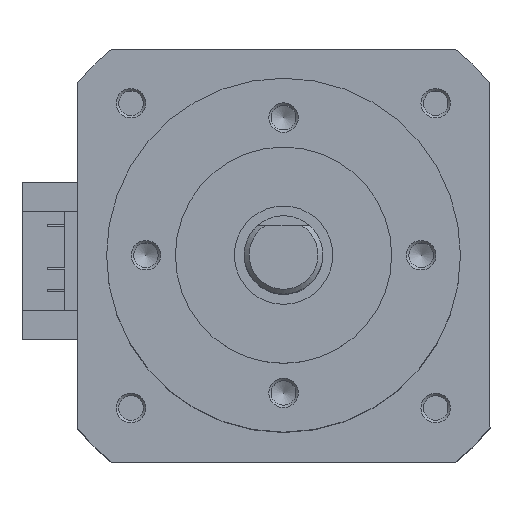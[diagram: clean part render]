
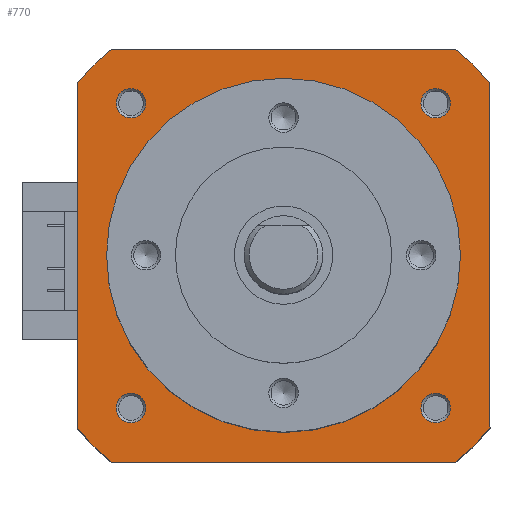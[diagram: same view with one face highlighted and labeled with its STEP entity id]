
A CAD part, top view. The second image highlights one B-rep face of the part: STEP entity #770.
In plain terms, the highlighted planar face has unit normal (0, 0, 1).
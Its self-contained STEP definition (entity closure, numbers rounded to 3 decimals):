
#219=LINE('',#4140,#351);
#224=LINE('',#4154,#356);
#228=LINE('',#4166,#360);
#232=LINE('',#4178,#364);
#351=VECTOR('',#3174,1.);
#356=VECTOR('',#3187,1.);
#360=VECTOR('',#3199,1.);
#364=VECTOR('',#3211,1.);
#770=ADVANCED_FACE('',(#1003,#1004,#1005,#1006,#1007),#888,.T.);
#888=PLANE('',#2731);
#1003=FACE_BOUND('',#1185,.T.);
#1004=FACE_BOUND('',#1186,.T.);
#1005=FACE_BOUND('',#1187,.T.);
#1006=FACE_BOUND('',#1188,.T.);
#1007=FACE_BOUND('',#1189,.T.);
#1185=EDGE_LOOP('',(#1571));
#1186=EDGE_LOOP('',(#1572));
#1187=EDGE_LOOP('',(#1573));
#1188=EDGE_LOOP('',(#1574));
#1189=EDGE_LOOP('',(#1575,#1576,#1577,#1578,#1579,#1580,#1581,#1582));
#1571=ORIENTED_EDGE('',*,*,#2277,.T.);
#1572=ORIENTED_EDGE('',*,*,#2278,.T.);
#1573=ORIENTED_EDGE('',*,*,#2279,.T.);
#1574=ORIENTED_EDGE('',*,*,#2280,.T.);
#1575=ORIENTED_EDGE('',*,*,#2255,.T.);
#1576=ORIENTED_EDGE('',*,*,#2259,.T.);
#1577=ORIENTED_EDGE('',*,*,#2262,.T.);
#1578=ORIENTED_EDGE('',*,*,#2265,.T.);
#1579=ORIENTED_EDGE('',*,*,#2268,.T.);
#1580=ORIENTED_EDGE('',*,*,#2271,.T.);
#1581=ORIENTED_EDGE('',*,*,#2274,.T.);
#1582=ORIENTED_EDGE('',*,*,#2276,.T.);
#2003=VERTEX_POINT('',#4139);
#2004=VERTEX_POINT('',#4141);
#2006=VERTEX_POINT('',#4147);
#2008=VERTEX_POINT('',#4153);
#2010=VERTEX_POINT('',#4159);
#2012=VERTEX_POINT('',#4165);
#2014=VERTEX_POINT('',#4171);
#2016=VERTEX_POINT('',#4177);
#2017=VERTEX_POINT('',#4184);
#2018=VERTEX_POINT('',#4186);
#2019=VERTEX_POINT('',#4188);
#2020=VERTEX_POINT('',#4190);
#2255=EDGE_CURVE('',#2004,#2003,#219,.T.);
#2259=EDGE_CURVE('',#2003,#2006,#2502,.T.);
#2262=EDGE_CURVE('',#2006,#2008,#224,.T.);
#2265=EDGE_CURVE('',#2008,#2010,#2504,.T.);
#2268=EDGE_CURVE('',#2010,#2012,#228,.T.);
#2271=EDGE_CURVE('',#2012,#2014,#2506,.T.);
#2274=EDGE_CURVE('',#2014,#2016,#232,.T.);
#2276=EDGE_CURVE('',#2016,#2004,#2508,.T.);
#2277=EDGE_CURVE('',#2017,#2017,#2509,.T.);
#2278=EDGE_CURVE('',#2018,#2018,#2510,.T.);
#2279=EDGE_CURVE('',#2019,#2019,#2511,.T.);
#2280=EDGE_CURVE('',#2020,#2020,#2512,.T.);
#2502=CIRCLE('',#2713,27.35);
#2504=CIRCLE('',#2717,27.35);
#2506=CIRCLE('',#2721,27.35);
#2508=CIRCLE('',#2725,27.35);
#2509=CIRCLE('',#2727,1.5);
#2510=CIRCLE('',#2728,1.5);
#2511=CIRCLE('',#2729,1.5);
#2512=CIRCLE('',#2730,1.5);
#2713=AXIS2_PLACEMENT_3D('',#4148,#3181,#3182);
#2717=AXIS2_PLACEMENT_3D('',#4160,#3193,#3194);
#2721=AXIS2_PLACEMENT_3D('',#4172,#3205,#3206);
#2725=AXIS2_PLACEMENT_3D('',#4181,#3216,#3217);
#2727=AXIS2_PLACEMENT_3D('',#4183,#3220,#3221);
#2728=AXIS2_PLACEMENT_3D('',#4185,#3222,#3223);
#2729=AXIS2_PLACEMENT_3D('',#4187,#3224,#3225);
#2730=AXIS2_PLACEMENT_3D('',#4189,#3226,#3227);
#2731=AXIS2_PLACEMENT_3D('',#4191,#3228,#3229);
#3174=DIRECTION('',(0.,-1.,0.));
#3181=DIRECTION('',(0.,0.,1.));
#3182=DIRECTION('',(1.,0.,0.));
#3187=DIRECTION('',(1.,0.,0.));
#3193=DIRECTION('',(0.,0.,1.));
#3194=DIRECTION('',(1.,0.,0.));
#3199=DIRECTION('',(0.,1.,0.));
#3205=DIRECTION('',(0.,0.,1.));
#3206=DIRECTION('',(1.,0.,0.));
#3211=DIRECTION('',(-1.,0.,0.));
#3216=DIRECTION('',(0.,0.,1.));
#3217=DIRECTION('',(1.,0.,0.));
#3220=DIRECTION('',(0.,0.,-1.));
#3221=DIRECTION('',(1.,0.,0.));
#3222=DIRECTION('',(0.,0.,-1.));
#3223=DIRECTION('',(1.,0.,0.));
#3224=DIRECTION('',(0.,0.,-1.));
#3225=DIRECTION('',(1.,0.,0.));
#3226=DIRECTION('',(0.,0.,-1.));
#3227=DIRECTION('',(1.,0.,0.));
#3228=DIRECTION('',(0.,0.,1.));
#3229=DIRECTION('',(1.,0.,0.));
#4139=CARTESIAN_POINT('',(-21.,-17.522,46.));
#4140=CARTESIAN_POINT('',(-21.,17.522,46.));
#4141=CARTESIAN_POINT('',(-21.,17.522,46.));
#4147=CARTESIAN_POINT('',(-17.522,-21.,46.));
#4148=CARTESIAN_POINT('',(0.,0.,46.));
#4153=CARTESIAN_POINT('',(17.522,-21.,46.));
#4154=CARTESIAN_POINT('',(-17.522,-21.,46.));
#4159=CARTESIAN_POINT('',(21.,-17.522,46.));
#4160=CARTESIAN_POINT('',(0.,0.,46.));
#4165=CARTESIAN_POINT('',(21.,17.522,46.));
#4166=CARTESIAN_POINT('',(21.,-17.522,46.));
#4171=CARTESIAN_POINT('',(17.522,21.,46.));
#4172=CARTESIAN_POINT('',(0.,0.,46.));
#4177=CARTESIAN_POINT('',(-17.522,21.,46.));
#4178=CARTESIAN_POINT('',(17.522,21.,46.));
#4181=CARTESIAN_POINT('',(0.,0.,46.));
#4183=CARTESIAN_POINT('',(-15.522,-15.5,46.));
#4184=CARTESIAN_POINT('',(-14.022,-15.5,46.));
#4185=CARTESIAN_POINT('',(15.478,-15.5,46.));
#4186=CARTESIAN_POINT('',(16.978,-15.5,46.));
#4187=CARTESIAN_POINT('',(15.478,15.5,46.));
#4188=CARTESIAN_POINT('',(16.978,15.5,46.));
#4189=CARTESIAN_POINT('',(-15.522,15.5,46.));
#4190=CARTESIAN_POINT('',(-14.022,15.5,46.));
#4191=CARTESIAN_POINT('',(0.,0.,46.));
